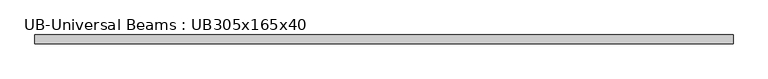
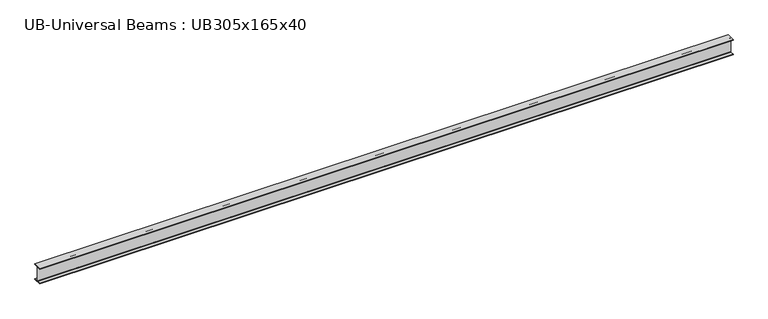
"""IFC4 building model written with IfcOpenShell, lengths in millimetres: beam geometry, UB-Universal Beams : UB305x165x40."""

from ifc_helpers import new_model, si_unit, point, frame, frame_2d, origin, place, context, project, spatial, polyline, circle_curve, trimmed, segment, composite_curve, outline, extrude, source, transform, mapped, element, save


def ub_universal_beams_ub305x165x40_0e36f50a(model_context):
    return source(origin(), model_context, "Body", "SweptSolid", [
        extrude(outline(composite_curve([segment(polyline([(82.5, -141.5), (82.5, -151.7), (-82.5, -151.7), (-82.5, -141.5), (-11.9, -141.5)]), True, "CONTINUOUS"), segment(trimmed(circle_curve(frame_2d((-11.9, -132.6)), 8.9), [point((-11.9, -141.5))], [point((-3.0, -132.6))], True, "CARTESIAN"), True, "CONTINUOUS"), segment(polyline([(-3.0, -132.6), (-3.0, 132.6)]), True, "CONTINUOUS"), segment(trimmed(circle_curve(frame_2d((-11.9, 132.6)), 8.9), [point((-3.0, 132.6))], [point((-11.9, 141.5))], True, "CARTESIAN"), True, "CONTINUOUS"), segment(polyline([(-11.9, 141.5), (-82.5, 141.5), (-82.5, 151.7), (82.5, 151.7), (82.5, 141.5), (11.9, 141.5)]), True, "CONTINUOUS"), segment(trimmed(circle_curve(frame_2d((11.9, 132.6)), 8.9), [point((11.9, 141.5))], [point((3.0, 132.6))], True, "CARTESIAN"), True, "CONTINUOUS"), segment(polyline([(3.0, 132.6), (3.0, -132.6)]), True, "CONTINUOUS"), segment(trimmed(circle_curve(frame_2d((11.9, -132.6)), 8.9), [point((3.0, -132.6))], [point((11.9, -141.5))], True, "CARTESIAN"), True, "CONTINUOUS"), segment(polyline([(11.9, -141.5), (82.5, -141.5)]), True, "CONTINUOUS")], self_intersect=False)), frame((-6645.15, 0.0, 0.0), z_axis=(1.0, 0.0, 0.0), x_axis=(0.0, 1.0, 0.0)), (0.0, 0.0, 1.0), 13209.1),
    ])


if __name__ == "__main__":
    model = new_model("IFC4")
    model_context = context("Model", 3, world=origin())
    ifc_project = project(units=[si_unit("LENGTHUNIT", "METRE", prefix="MILLI")], contexts=[model_context])
    site = spatial("IfcSite", under=ifc_project)
    building = spatial("IfcBuilding", under=site)
    placement = place(None, origin())
    ub_universal_beams_ub305x165x40_shape = ub_universal_beams_ub305x165x40_0e36f50a(model_context)
    element("IfcBeam", 1, ObjectType="UB-Universal Beams : UB305x165x40", at=placement, inside=building, context=model_context, shape_type="MappedRepresentation", body=[
        mapped(ub_universal_beams_ub305x165x40_shape, transform((0.0, 0.0, 0.0), x_axis=(1.0, 0.0, 0.0), y_axis=(0.0, 1.0, 0.0), z_axis=(0.0, 0.0, 1.0))),
    ])
    save(model, "model.ifc")
